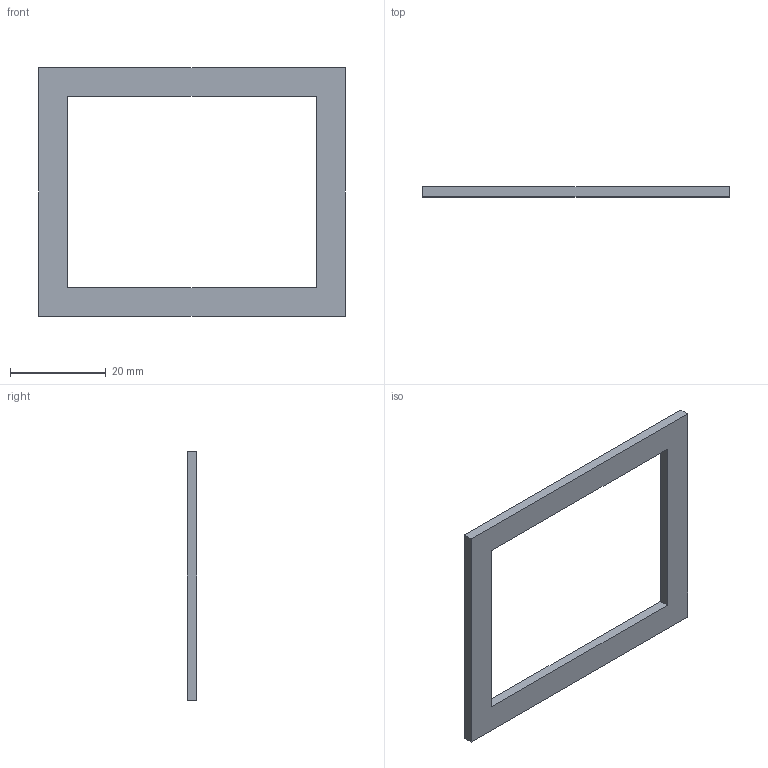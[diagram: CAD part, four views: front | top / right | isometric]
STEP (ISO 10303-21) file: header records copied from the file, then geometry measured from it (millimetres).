
FILE_DESCRIPTION(('Open CASCADE Model'),'2;1');
FILE_NAME('Open CASCADE Shape Model','2026-09-29T12:48:04',('Author'),( 'Open CASCADE'),'Open CASCADE STEP processor 7.9','Open CASCADE 7.9' ,'Unknown');
FILE_SCHEMA(('AUTOMOTIVE_DESIGN { 1 0 10303 214 1 1 1 1 }'));
Length unit declared in the file: millimetre
Products named in the file (1): Open CASCADE STEP translator 7.9 24
Bounding box: 64 x 2 x 52 mm (x, y, z)
Volume: 2496 mm3; surface area: 3328 mm2
Topology: 1 solids, 1 shells, 10 faces, 24 edges, 16 vertices
Faces by surface type: plane 10
Entity records: 598 total; most frequent: CARTESIAN_POINT 115, DIRECTION 78, LINE 56, VECTOR 56, ORIENTED_EDGE 48, PCURVE 48, DEFINITIONAL_REPRESENTATION 48, EDGE_CURVE 24
